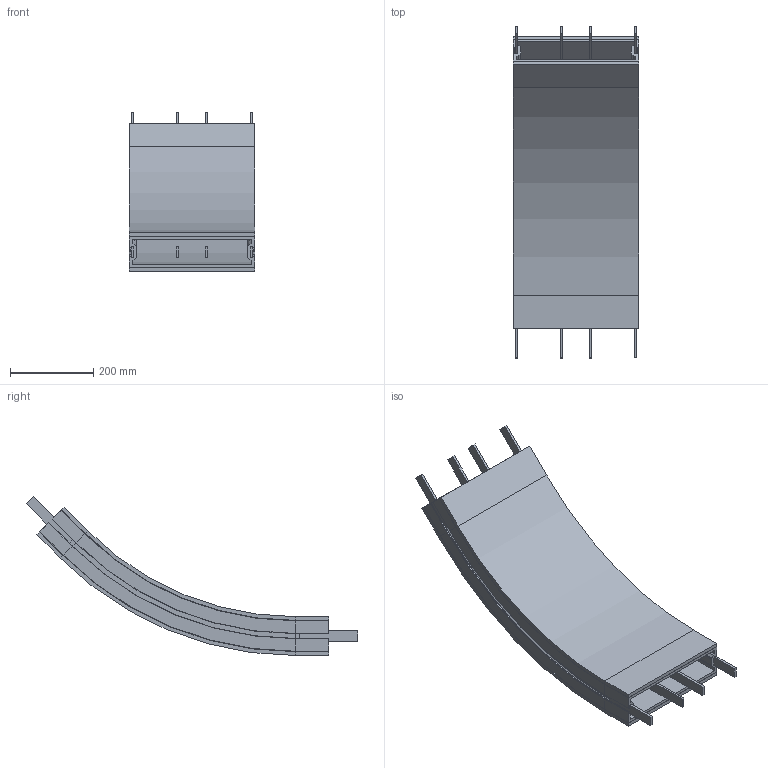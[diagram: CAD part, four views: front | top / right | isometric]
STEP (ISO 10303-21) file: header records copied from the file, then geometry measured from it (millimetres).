
FILE_DESCRIPTION (( 'STEP AP214' ), '1' );
FILE_NAME ('FBBV 45A300R750L80L80.00.step', '2026-05-29T10:33:41', ( '' ), ( '' ), 'SwSTEP 2.0', 'SolidWorks 2024', '' );
FILE_SCHEMA (( 'AUTOMOTIVE_DESIGN' ));
Length unit declared in the file: millimetre
Products named in the file (1): FBBV 45A300R750L80L80.00
Bounding box: 300 x 795.23 x 381.07 mm (x, y, z)
Volume: 8256756.3 mm3; surface area: 2174951.2 mm2
Topology: 11 solids, 11 shells, 375 faces, 845 edges, 492 vertices
Faces by surface type: plane 278, cone 66, cylinder 26, torus 5
Entity records: 10191 total; most frequent: DIRECTION 1724, CARTESIAN_POINT 1713, ORIENTED_EDGE 1690, EDGE_CURVE 845, LINE 718, VECTOR 718, AXIS2_PLACEMENT_3D 503, VERTEX_POINT 492
